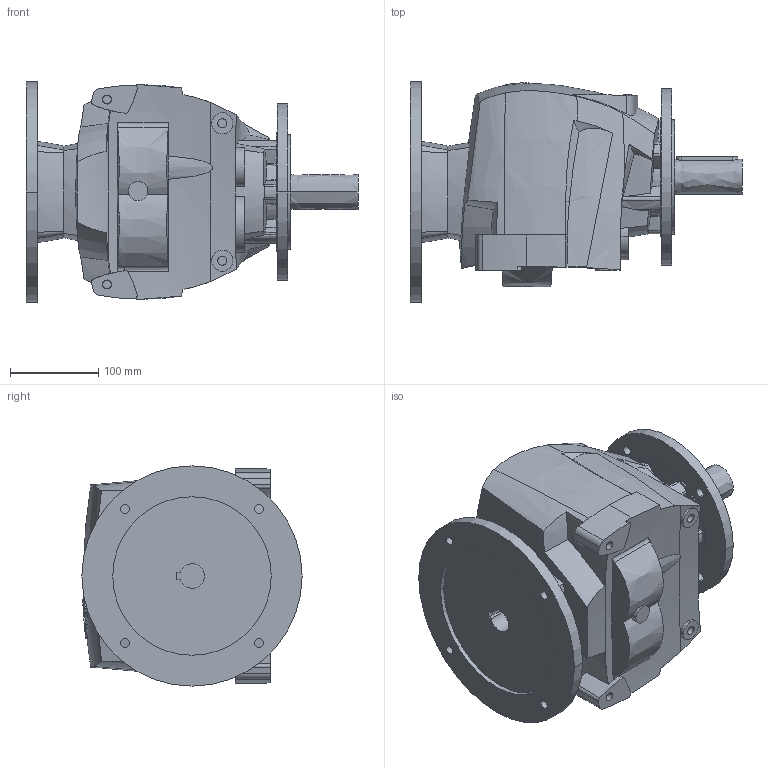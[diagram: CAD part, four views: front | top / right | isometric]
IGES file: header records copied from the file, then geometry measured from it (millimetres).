
Start section:  PTC IGES file: r35_200_pam100112_d2.igs
Global section: file name: r35_200_pam100112_d2.igs; native system: Pro/ENGINEER by Parametric Technology Corporation; preprocessor: 2008230; author: Luca; organization: Unknown; date: 20131125.164414; units: millimetre
Bounding box: 376.97 x 250 x 250 mm (x, y, z)
Volume: 9454969.6 mm3; surface area: 442618.2 mm2
Topology: 1 solids, 15 shells, 463 faces, 1210 edges, 813 vertices
Faces by surface type: revolution 207, bspline 164, extrusion 92
